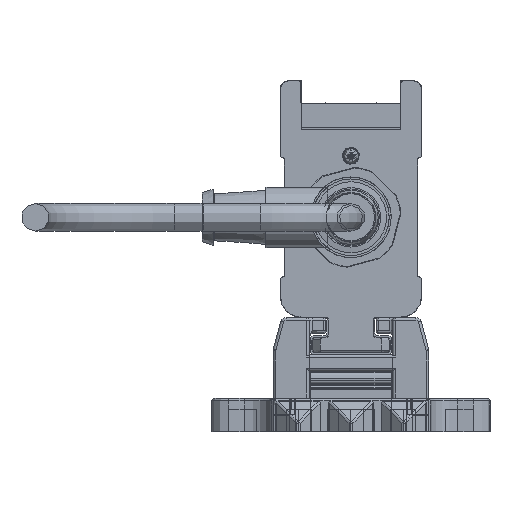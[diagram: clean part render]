
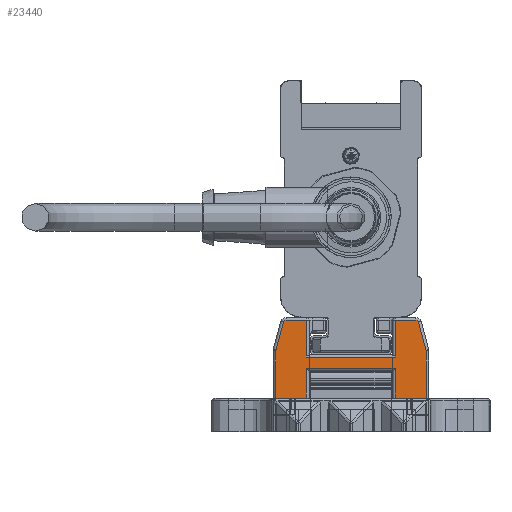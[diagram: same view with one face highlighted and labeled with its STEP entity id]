
A CAD part, left-side view. The second image highlights one B-rep face of the part: STEP entity #23440.
In plain terms, the highlighted planar face has unit normal (-1, 0, 0).
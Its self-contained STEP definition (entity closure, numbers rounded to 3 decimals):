
#23440=ADVANCED_FACE('', (#23450), #23460, .T.);
#165170=AXIS2_PLACEMENT_3D('Ax2Pl3d', #165180, #165190, #165200);
#165410=AXIS2_PLACEMENT_3D('Ax2Pl3d', #165420, #165430, #165440);
#170290=AXIS2_PLACEMENT_3D('Ax2Pl3d', #170300, #170310, #170320);
#175370=AXIS2_PLACEMENT_3D('Ax2Pl3d', #175380, #175390, #175400);
#185050=AXIS2_PLACEMENT_3D('Ax2Pl3d', #185060, #185070, #185080);
#714080=CARTESIAN_POINT('', (-747.669,-5206.345,
331.37));
#165180=CARTESIAN_POINT('HicPkt', (-747.669,-5205.379,
331.111));
#714090=CARTESIAN_POINT('', (-747.669,-5206.379,331.111)
);
#714100=CARTESIAN_POINT('', (-747.669,-5205.037,
336.255));
#714120=CARTESIAN_POINT('', (-747.669,-5205.037,
336.255));
#714150=CARTESIAN_POINT('', (-747.669,-5204.554,
336.625));
#165420=CARTESIAN_POINT('HicPkt', (-747.669,-5204.554,
336.125));
#714370=CARTESIAN_POINT('', (-747.669,-5206.379,322.625)
);
#714380=CARTESIAN_POINT('', (-747.669,-5200.881,322.625)
);
#714390=CARTESIAN_POINT('', (-747.669,-5200.881,322.625)
);
#714470=CARTESIAN_POINT('', (-747.669,-5184.881,322.625)
);
#714480=CARTESIAN_POINT('', (-747.669,-5179.383,322.625)
);
#714490=CARTESIAN_POINT('', (-747.669,-5179.383,322.625)
);
#170300=CARTESIAN_POINT('HicPkt', (-747.669,-5181.209,
336.125));
#716960=CARTESIAN_POINT('', (-747.669,-5180.726,
336.255));
#716970=CARTESIAN_POINT('', (-747.669,-5181.209,
336.625));
#716980=CARTESIAN_POINT('', (-747.669,-5200.881,
330.025));
#716990=CARTESIAN_POINT('', (-747.669,-5184.881,
330.025));
#717000=CARTESIAN_POINT('', (-747.669,-5200.881,
330.025));
#717160=CARTESIAN_POINT('', (-747.669,-5200.881,
328.005));
#717170=CARTESIAN_POINT('', (-747.669,-5184.881,
328.005));
#717180=CARTESIAN_POINT('', (-747.669,-5184.881,
328.005));
#717190=CARTESIAN_POINT('', (-747.669,-5200.881,
328.005));
#717210=CARTESIAN_POINT('', (-747.669,-5184.881,322.625)
);
#717220=CARTESIAN_POINT('', (-747.669,-5184.881,
330.025));
#717230=CARTESIAN_POINT('', (-747.669,-5184.881,
336.625));
#718080=CARTESIAN_POINT('', (-747.669,-5184.881,
336.625));
#718090=CARTESIAN_POINT('', (-747.669,-5180.726,
336.255));
#718100=CARTESIAN_POINT('', (-747.669,-5179.417,
331.37));
#718290=CARTESIAN_POINT('', (-747.669,-5179.383,331.111)
);
#718300=CARTESIAN_POINT('', (-747.669,-5179.383,331.111)
);
#175380=CARTESIAN_POINT('HicPkt', (-747.669,-5180.383,
331.111));
#719110=CARTESIAN_POINT('', (-747.669,-5206.379,331.111)
);
#185060=CARTESIAN_POINT('HicPkt', (-747.669,-5204.554,
336.625));
#720910=CARTESIAN_POINT('', (-747.669,-5200.881,
336.625));
#720920=CARTESIAN_POINT('', (-747.669,-5200.881,
336.625));
#720930=CARTESIAN_POINT('', (-747.669,-5200.881,
336.625));
#828200=CIRCLE('Circle', #165170, 1.);
#828240=CIRCLE('Circle', #165410, 0.5);
#828820=CIRCLE('Circle', #170290, 0.5);
#829350=CIRCLE('Circle', #175370, 1.);
#165190=DIRECTION('Axis', (-1.,0.,
0.));
#165200=DIRECTION('RefDirection', (0.,
0.,-1.));
#1155220=DIRECTION('', (0.,0.259,
0.966));
#165430=DIRECTION('Axis', (-1.,0.,
0.));
#165440=DIRECTION('RefDirection', (0.,
0.,-1.));
#1155330=DIRECTION('', (0.,1.,0.));
#1155370=DIRECTION('', (0.,1.,0.));
#170310=DIRECTION('Axis', (1.,0.,
0.));
#170320=DIRECTION('RefDirection', (0.,
0.,-1.));
#1156560=DIRECTION('', (0.,-1.,0.));
#1156660=DIRECTION('', (0.,1.,0.));
#1156670=DIRECTION('', (0.,0.,1.));
#1156690=DIRECTION('', (0.,0.,-1.));
#1156700=DIRECTION('', (0.,0.,-1.));
#1157130=DIRECTION('', (0.,-1.,0.))
;
#1157140=DIRECTION('', (0.,-0.259,0.966));
#1157230=DIRECTION('', (0.,0.,1.));
#175390=DIRECTION('Axis', (1.,0.,
0.));
#175400=DIRECTION('RefDirection', (0.,
0.,-1.));
#1157600=DIRECTION('', (0.,0.,1.));
#185070=DIRECTION('Axis', (-1.,0.,
0.));
#185080=DIRECTION('RefDirection', (0.,
0.,-1.));
#1158440=DIRECTION('', (0.,1.,0.));
#1158450=DIRECTION('', (0.,0.,1.));
#1233130=EDGE_CURVE('', #1233140, #1233120, #828200, .T.);
#1233190=EDGE_CURVE('', #1233120, #1233170, #1233200, .T.);
#1233260=EDGE_CURVE('', #1233170, #1233250, #828240, .T.);
#1233710=EDGE_CURVE('', #1233700, #1233720, #1233730, .T.);
#1233870=EDGE_CURVE('', #1233860, #1233880, #1233890, .T.);
#1238230=EDGE_CURVE('', #1238240, #1238250, #828820, .T.);
#1238280=EDGE_CURVE('', #1238290, #1238300, #1238310, .T.);
#1238650=EDGE_CURVE('', #1238630, #1238660, #1238670, .T.);
#1238700=EDGE_CURVE('', #1233720, #1238630, #1238710, .T.);
#1238740=EDGE_CURVE('', #1238660, #1233860, #1238750, .T.);
#1238760=EDGE_CURVE('', #1238770, #1238290, #1238780, .T.);
#1240600=EDGE_CURVE('', #1238250, #1238770, #1240610, .T.);
#1240670=EDGE_CURVE('', #1240680, #1238240, #1240690, .T.);
#1241110=EDGE_CURVE('', #1233880, #1241120, #1241130, .T.);
#1241150=EDGE_CURVE('', #1241120, #1240680, #829350, .T.);
#1242860=EDGE_CURVE('', #1233700, #1233140, #1242870, .T.);
#1246670=EDGE_CURVE('', #1233250, #1246680, #1246690, .T.);
#1246700=EDGE_CURVE('', #1238300, #1246680, #1246710, .T.);
#1483650=EDGE_LOOP('Edge_loop', (#1483660,#1483670,#1483680,#1483690,
#1483700,#1483710,#1483720,#1483730,#1483740,#1483750,#1483760,
#1483770,#1483780,#1483790,#1483800,#1483810,#1483820,#1483830));
#23450=FACE_OUTER_BOUND('Face_outer_bound', #1483650, .T.);
#1233200=LINE('Line', #714120, #1704690);
#1233730=LINE('Line', #714380, #1704800);
#1233890=LINE('Line', #714480, #1704840);
#1238310=LINE('Line', #716980, #1706030);
#1238670=LINE('Line', #717170, #1706130);
#1238710=LINE('Line', #717190, #1706140);
#1238750=LINE('Line', #717210, #1706160);
#1238780=LINE('Line', #717220, #1706170);
#1240610=LINE('Line', #718080, #1706600);
#1240690=LINE('Line', #718090, #1706610);
#1241130=LINE('Line', #718290, #1706700);
#1242870=LINE('Line', #719110, #1707070);
#1246690=LINE('Line', #720910, #1707910);
#1246710=LINE('Line', #720930, #1707920);
#1483660=ORIENTED_EDGE('', *, *, #1246670, .T.);
#1483670=ORIENTED_EDGE('', *, *, #1246700, .F.);
#1483680=ORIENTED_EDGE('', *, *, #1238280, .F.);
#1483690=ORIENTED_EDGE('', *, *, #1238760, .F.);
#1483700=ORIENTED_EDGE('', *, *, #1240600, .F.);
#1483710=ORIENTED_EDGE('', *, *, #1238230, .F.);
#1483720=ORIENTED_EDGE('', *, *, #1240670, .F.);
#1483730=ORIENTED_EDGE('', *, *, #1241150, .F.);
#1483740=ORIENTED_EDGE('', *, *, #1241110, .F.);
#1483750=ORIENTED_EDGE('', *, *, #1233870, .F.);
#1483760=ORIENTED_EDGE('', *, *, #1238740, .F.);
#1483770=ORIENTED_EDGE('', *, *, #1238650, .F.);
#1483780=ORIENTED_EDGE('', *, *, #1238700, .F.);
#1483790=ORIENTED_EDGE('', *, *, #1233710, .F.);
#1483800=ORIENTED_EDGE('', *, *, #1242860, .T.);
#1483810=ORIENTED_EDGE('', *, *, #1233130, .T.);
#1483820=ORIENTED_EDGE('', *, *, #1233190, .T.);
#1483830=ORIENTED_EDGE('', *, *, #1233260, .T.);
#23460=PLANE('Plane', #185050);
#1704690=VECTOR('', #1155220, 5.057);
#1704800=VECTOR('', #1155330, 5.498);
#1704840=VECTOR('', #1155370, 5.498);
#1706030=VECTOR('', #1156560, 16.);
#1706130=VECTOR('', #1156660, 16.);
#1706140=VECTOR('', #1156670, 5.38);
#1706160=VECTOR('', #1156690, 5.38);
#1706170=VECTOR('', #1156700, 6.6);
#1706600=VECTOR('', #1157130, 3.672);
#1706610=VECTOR('', #1157140, 5.057);
#1706700=VECTOR('', #1157230, 8.486);
#1707070=VECTOR('', #1157600, 8.486);
#1707910=VECTOR('', #1158440, 3.672);
#1707920=VECTOR('', #1158450, 6.6);
#1233120=VERTEX_POINT('', #714080);
#1233140=VERTEX_POINT('', #714090);
#1233170=VERTEX_POINT('', #714100);
#1233250=VERTEX_POINT('', #714150);
#1233700=VERTEX_POINT('', #714370);
#1233720=VERTEX_POINT('', #714390);
#1233860=VERTEX_POINT('', #714470);
#1233880=VERTEX_POINT('', #714490);
#1238240=VERTEX_POINT('', #716960);
#1238250=VERTEX_POINT('', #716970);
#1238290=VERTEX_POINT('', #716990);
#1238300=VERTEX_POINT('', #717000);
#1238630=VERTEX_POINT('', #717160);
#1238660=VERTEX_POINT('', #717180);
#1238770=VERTEX_POINT('', #717230);
#1240680=VERTEX_POINT('', #718100);
#1241120=VERTEX_POINT('', #718300);
#1246680=VERTEX_POINT('', #720920);
